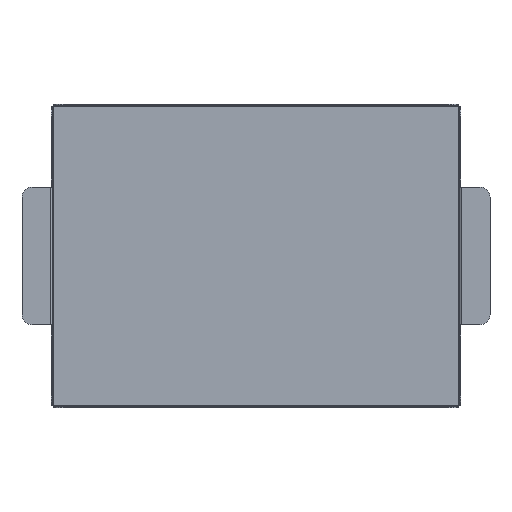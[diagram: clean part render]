
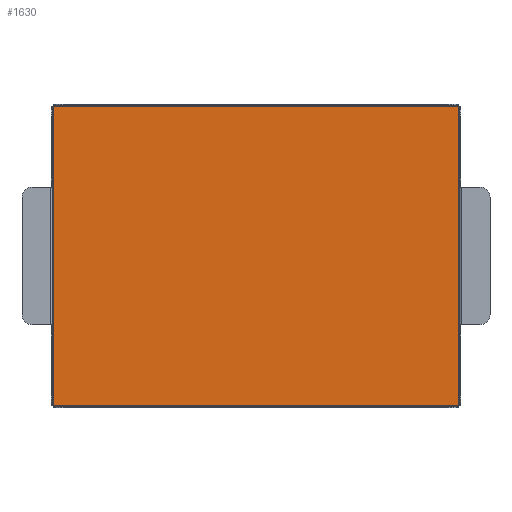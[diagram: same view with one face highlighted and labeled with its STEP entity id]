
A CAD part, top view. The second image highlights one B-rep face of the part: STEP entity #1630.
In plain terms, the highlighted planar face has unit normal (0, 0, 1).
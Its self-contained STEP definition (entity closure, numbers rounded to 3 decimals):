
#41 = AXIS2_PLACEMENT_3D ( 'NONE', #979, #1606, #209 ) ;
#144 = ORIENTED_EDGE ( 'NONE', *, *, #1126, .F. ) ;
#209 = DIRECTION ( 'NONE',  ( 1., 0., 0. ) ) ;
#388 = PLANE ( 'NONE',  #41 ) ;
#411 = VECTOR ( 'NONE', #1287, 1000. ) ;
#521 = VECTOR ( 'NONE', #1958, 1000. ) ;
#615 = DIRECTION ( 'NONE',  ( 0., 1., 0. ) ) ;
#663 = ORIENTED_EDGE ( 'NONE', *, *, #2251, .F. ) ;
#860 = VECTOR ( 'NONE', #615, 1000. ) ;
#939 = VERTEX_POINT ( 'NONE', #1152 ) ;
#979 = CARTESIAN_POINT ( 'NONE',  ( 0., 0., 0. ) ) ;
#1064 = VERTEX_POINT ( 'NONE', #1127 ) ;
#1074 = ORIENTED_EDGE ( 'NONE', *, *, #1590, .T. ) ;
#1126 = EDGE_CURVE ( 'NONE', #1064, #939, #1384, .T. ) ;
#1127 = CARTESIAN_POINT ( 'NONE',  ( -200., 148., 0. ) ) ;
#1152 = CARTESIAN_POINT ( 'NONE',  ( 200., 148., 0. ) ) ;
#1224 = EDGE_LOOP ( 'NONE', ( #1074, #144, #2517, #663 ) ) ;
#1287 = DIRECTION ( 'NONE',  ( 0., -1., 0. ) ) ;
#1300 = LINE ( 'NONE', #1712, #411 ) ;
#1323 = VERTEX_POINT ( 'NONE', #2237 ) ;
#1384 = LINE ( 'NONE', #2173, #521 ) ;
#1424 = VECTOR ( 'NONE', #1493, 1000. ) ;
#1493 = DIRECTION ( 'NONE',  ( -1., 0., 0. ) ) ;
#1561 = CARTESIAN_POINT ( 'NONE',  ( 200., -150., 0. ) ) ;
#1590 = EDGE_CURVE ( 'NONE', #2107, #939, #1601, .T. ) ;
#1601 = LINE ( 'NONE', #1561, #860 ) ;
#1606 = DIRECTION ( 'NONE',  ( 0., 0., 1. ) ) ;
#1630 = ADVANCED_FACE ( 'NONE', ( #1943 ), #388, .T. ) ;
#1663 = LINE ( 'NONE', #1675, #1424 ) ;
#1675 = CARTESIAN_POINT ( 'NONE',  ( 200., -148., 0. ) ) ;
#1712 = CARTESIAN_POINT ( 'NONE',  ( -200., -150., 0. ) ) ;
#1813 = CARTESIAN_POINT ( 'NONE',  ( 200., -148., 0. ) ) ;
#1943 = FACE_OUTER_BOUND ( 'NONE', #1224, .T. ) ;
#1958 = DIRECTION ( 'NONE',  ( 1., 0., 0. ) ) ;
#2107 = VERTEX_POINT ( 'NONE', #1813 ) ;
#2173 = CARTESIAN_POINT ( 'NONE',  ( -200., 148., 0. ) ) ;
#2237 = CARTESIAN_POINT ( 'NONE',  ( -200., -148., 0. ) ) ;
#2251 = EDGE_CURVE ( 'NONE', #2107, #1323, #1663, .T. ) ;
#2362 = EDGE_CURVE ( 'NONE', #1064, #1323, #1300, .T. ) ;
#2517 = ORIENTED_EDGE ( 'NONE', *, *, #2362, .T. ) ;
